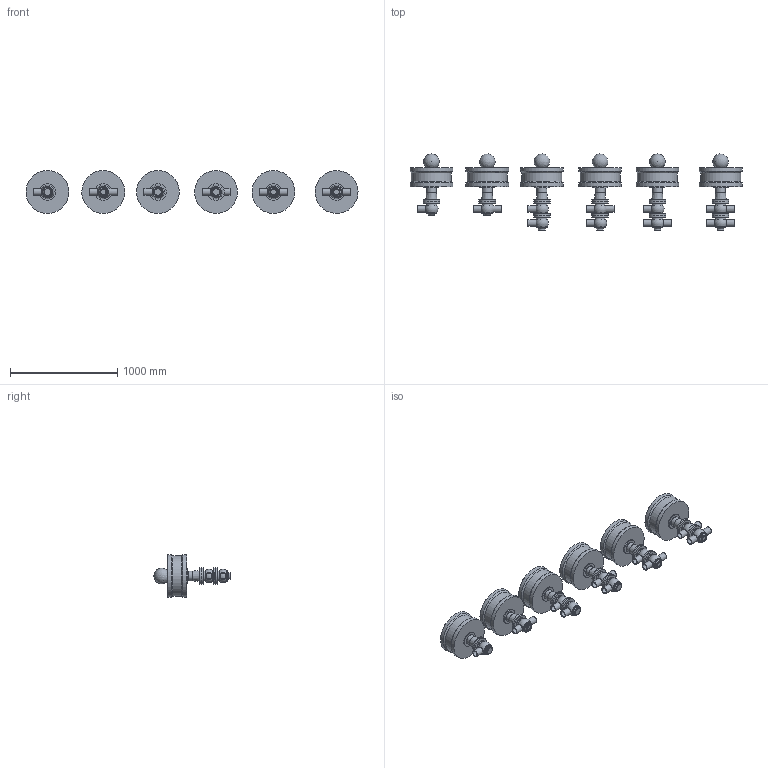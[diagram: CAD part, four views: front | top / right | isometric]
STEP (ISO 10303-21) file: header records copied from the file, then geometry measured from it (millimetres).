
FILE_DESCRIPTION(/* description */ (''),/* implementation_level */ '2;1');
FILE_NAME(/* name */ 'C:\Users\marz-m\Desktop\PDF\BBZQ 3D STEP\BBZQ-DN63.5-CIL.360.stp',/* time_stamp */ '2018-04-13T15:16:48+02:00',/* author */ ('marz-m'),/* organization */ (''),/* preprocessor_version */ 'ST-DEVELOPER v17',/* originating_system */ 'Autodesk Inventor 2018',/* authorisation */ '');
FILE_SCHEMA (('AUTOMOTIVE_DESIGN { 1 0 10303 214 3 1 1 }'));
Length unit declared in the file: millimetre
Products named in the file (8): BBZQ-DN63.5-CIL.360; assemblaggio dn65 per cil 207-360; CILINDRO 360; SAGOMA-GIOTTO-; COR-INF-L-BBZQ-DN63.5; CORPO SUP- DN63.5 L; CORPO SUP- DN63.5 T; COR-INF-T-BBZQ-DN63.5
Assembly tree (28 placements, depth 2):
  BBZQ-DN63.5-CIL.360
    assemblaggio dn65 per cil 207-360  x6
    COR-INF-L-BBZQ-DN63.5  x3
    COR-INF-T-BBZQ-DN63.5  x3
    CORPO SUP- DN63.5 L  x2
    CORPO SUP- DN63.5 T  x2
    CILINDRO 360  x6
    SAGOMA-GIOTTO-  x6
Bounding box: 3097.22 x 709.47 x 400 mm (x, y, z)
Volume: 157432599 mm3; surface area: 5234253.6 mm2
Topology: 28 solids, 28 shells, 320 faces, 775 edges, 582 vertices
Faces by surface type: cylinder 121, plane 112, torus 32, sphere 31, cone 24
Full cylindrical faces by diameter (mm): 25.4 x6, 53.5 x18, 63.5 x21, 69.8 x6, 92 x6, 101 x20, 141 x6, 154 x20, 374 x6, 400 x12
Entity records: 3427 total; most frequent: DIRECTION 672, CARTESIAN_POINT 528, ORIENTED_EDGE 452, AXIS2_PLACEMENT_3D 315, EDGE_CURVE 226, CIRCLE 184, VERTEX_POINT 171, EDGE_LOOP 121
